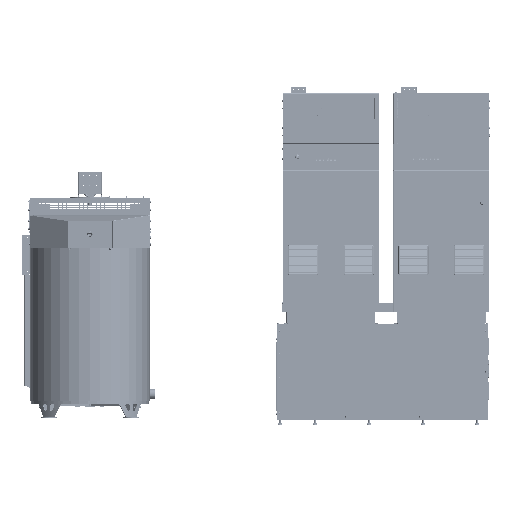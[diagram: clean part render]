
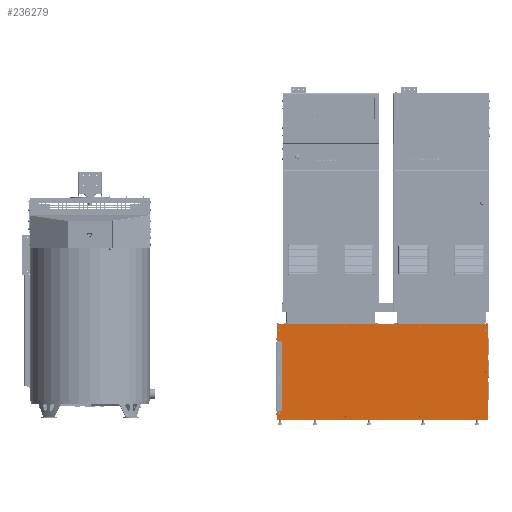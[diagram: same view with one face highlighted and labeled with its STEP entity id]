
A CAD part, top view. The second image highlights one B-rep face of the part: STEP entity #236279.
In plain terms, the highlighted planar face has unit normal (0, 0, 1).
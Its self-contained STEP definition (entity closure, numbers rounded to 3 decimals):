
#7999=FACE_BOUND('',#27892,.T.);
#8000=FACE_BOUND('',#27893,.T.);
#8001=FACE_BOUND('',#27894,.T.);
#8002=FACE_BOUND('',#27895,.T.);
#8003=FACE_BOUND('',#27896,.T.);
#8004=FACE_BOUND('',#27897,.T.);
#8005=FACE_BOUND('',#27898,.T.);
#8006=FACE_BOUND('',#27899,.T.);
#8007=FACE_BOUND('',#27900,.T.);
#16119=FACE_OUTER_BOUND('',#27891,.T.);
#27891=EDGE_LOOP('',(#189075,#189076,#189077,#189078,#189079,#189080,#189081,
#189082,#189083,#189084,#189085,#189086));
#27892=EDGE_LOOP('',(#189087));
#27893=EDGE_LOOP('',(#189088));
#27894=EDGE_LOOP('',(#189089));
#27895=EDGE_LOOP('',(#189090));
#27896=EDGE_LOOP('',(#189091));
#27897=EDGE_LOOP('',(#189092));
#27898=EDGE_LOOP('',(#189093));
#27899=EDGE_LOOP('',(#189094));
#27900=EDGE_LOOP('',(#189095));
#45800=LINE('',#384244,#67558);
#45805=LINE('',#384257,#67563);
#45809=LINE('',#384269,#67567);
#45811=LINE('',#384275,#67569);
#45817=LINE('',#384287,#67575);
#45818=LINE('',#384290,#67576);
#45833=LINE('',#384351,#67591);
#45839=LINE('',#384371,#67597);
#67558=VECTOR('',#303241,10.);
#67563=VECTOR('',#303254,10.);
#67567=VECTOR('',#303266,10.);
#67569=VECTOR('',#303270,10.);
#67575=VECTOR('',#303278,10.);
#67576=VECTOR('',#303281,10.);
#67591=VECTOR('',#303344,10.);
#67597=VECTOR('',#303374,10.);
#85584=CIRCLE('',#255533,6.);
#85587=CIRCLE('',#255538,6.);
#85609=CIRCLE('',#255578,6.);
#85610=CIRCLE('',#255579,6.);
#85611=CIRCLE('',#255580,4.);
#85612=CIRCLE('',#255581,4.);
#85613=CIRCLE('',#255582,4.);
#85614=CIRCLE('',#255583,4.);
#85615=CIRCLE('',#255584,4.);
#85616=CIRCLE('',#255585,4.);
#85617=CIRCLE('',#255586,4.);
#85618=CIRCLE('',#255587,4.);
#85619=CIRCLE('',#255588,4.);
#106117=VERTEX_POINT('',#384237);
#106118=VERTEX_POINT('',#384241);
#106120=VERTEX_POINT('',#384247);
#106123=VERTEX_POINT('',#384255);
#106125=VERTEX_POINT('',#384261);
#106127=VERTEX_POINT('',#384267);
#106128=VERTEX_POINT('',#384271);
#106130=VERTEX_POINT('',#384274);
#106133=VERTEX_POINT('',#384281);
#106135=VERTEX_POINT('',#384285);
#106136=VERTEX_POINT('',#384289);
#106158=VERTEX_POINT('',#384349);
#106161=VERTEX_POINT('',#384373);
#106162=VERTEX_POINT('',#384375);
#106163=VERTEX_POINT('',#384377);
#106164=VERTEX_POINT('',#384379);
#106165=VERTEX_POINT('',#384381);
#106166=VERTEX_POINT('',#384383);
#106167=VERTEX_POINT('',#384385);
#106168=VERTEX_POINT('',#384387);
#106169=VERTEX_POINT('',#384389);
#139429=EDGE_CURVE('',#106118,#106117,#45800,.T.);
#139431=EDGE_CURVE('',#106120,#106118,#85584,.T.);
#139436=EDGE_CURVE('',#106120,#106123,#45805,.T.);
#139439=EDGE_CURVE('',#106123,#106125,#85587,.T.);
#139442=EDGE_CURVE('',#106125,#106127,#45809,.T.);
#139444=EDGE_CURVE('',#106130,#106128,#45811,.T.);
#139450=EDGE_CURVE('',#106135,#106133,#45817,.T.);
#139451=EDGE_CURVE('',#106136,#106117,#45818,.T.);
#139483=EDGE_CURVE('',#106135,#106158,#45833,.T.);
#139493=EDGE_CURVE('',#106133,#106128,#85609,.T.);
#139494=EDGE_CURVE('',#106136,#106158,#45839,.T.);
#139495=EDGE_CURVE('',#106127,#106130,#85610,.T.);
#139496=EDGE_CURVE('',#106161,#106161,#85611,.T.);
#139497=EDGE_CURVE('',#106162,#106162,#85612,.T.);
#139498=EDGE_CURVE('',#106163,#106163,#85613,.T.);
#139499=EDGE_CURVE('',#106164,#106164,#85614,.T.);
#139500=EDGE_CURVE('',#106165,#106165,#85615,.T.);
#139501=EDGE_CURVE('',#106166,#106166,#85616,.T.);
#139502=EDGE_CURVE('',#106167,#106167,#85617,.T.);
#139503=EDGE_CURVE('',#106168,#106168,#85618,.T.);
#139504=EDGE_CURVE('',#106169,#106169,#85619,.T.);
#189075=ORIENTED_EDGE('',*,*,#139493,.F.);
#189076=ORIENTED_EDGE('',*,*,#139450,.F.);
#189077=ORIENTED_EDGE('',*,*,#139483,.T.);
#189078=ORIENTED_EDGE('',*,*,#139494,.F.);
#189079=ORIENTED_EDGE('',*,*,#139451,.T.);
#189080=ORIENTED_EDGE('',*,*,#139429,.F.);
#189081=ORIENTED_EDGE('',*,*,#139431,.F.);
#189082=ORIENTED_EDGE('',*,*,#139436,.T.);
#189083=ORIENTED_EDGE('',*,*,#139439,.T.);
#189084=ORIENTED_EDGE('',*,*,#139442,.T.);
#189085=ORIENTED_EDGE('',*,*,#139495,.T.);
#189086=ORIENTED_EDGE('',*,*,#139444,.T.);
#189087=ORIENTED_EDGE('',*,*,#139496,.T.);
#189088=ORIENTED_EDGE('',*,*,#139497,.T.);
#189089=ORIENTED_EDGE('',*,*,#139498,.T.);
#189090=ORIENTED_EDGE('',*,*,#139499,.T.);
#189091=ORIENTED_EDGE('',*,*,#139500,.T.);
#189092=ORIENTED_EDGE('',*,*,#139501,.T.);
#189093=ORIENTED_EDGE('',*,*,#139502,.T.);
#189094=ORIENTED_EDGE('',*,*,#139503,.T.);
#189095=ORIENTED_EDGE('',*,*,#139504,.T.);
#218674=PLANE('',#255577);
#236279=ADVANCED_FACE('',(#16119,#7999,#8000,#8001,#8002,#8003,#8004,#8005,
#8006,#8007),#218674,.F.);
#255533=AXIS2_PLACEMENT_3D('',#384248,#303245,#303246);
#255538=AXIS2_PLACEMENT_3D('',#384263,#303260,#303261);
#255577=AXIS2_PLACEMENT_3D('',#384369,#303370,#303371);
#255578=AXIS2_PLACEMENT_3D('',#384370,#303372,#303373);
#255579=AXIS2_PLACEMENT_3D('',#384372,#303375,#303376);
#255580=AXIS2_PLACEMENT_3D('',#384374,#303377,#303378);
#255581=AXIS2_PLACEMENT_3D('',#384376,#303379,#303380);
#255582=AXIS2_PLACEMENT_3D('',#384378,#303381,#303382);
#255583=AXIS2_PLACEMENT_3D('',#384380,#303383,#303384);
#255584=AXIS2_PLACEMENT_3D('',#384382,#303385,#303386);
#255585=AXIS2_PLACEMENT_3D('',#384384,#303387,#303388);
#255586=AXIS2_PLACEMENT_3D('',#384386,#303389,#303390);
#255587=AXIS2_PLACEMENT_3D('',#384388,#303391,#303392);
#255588=AXIS2_PLACEMENT_3D('',#384390,#303393,#303394);
#303241=DIRECTION('',(0.,1.,0.));
#303245=DIRECTION('center_axis',(0.,0.,
-1.));
#303246=DIRECTION('ref_axis',(-0.707,-0.707,0.));
#303254=DIRECTION('',(1.,0.,0.));
#303260=DIRECTION('center_axis',(0.,0.,
-1.));
#303261=DIRECTION('ref_axis',(1.,0.,0.));
#303266=DIRECTION('',(0.,-1.,0.));
#303270=DIRECTION('',(-1.,0.,0.));
#303278=DIRECTION('',(0.,1.,0.));
#303281=DIRECTION('',(-1.,0.,0.));
#303344=DIRECTION('',(1.,0.,0.));
#303370=DIRECTION('center_axis',(0.,0.,
-1.));
#303371=DIRECTION('ref_axis',(-1.,0.,0.));
#303372=DIRECTION('center_axis',(0.,0.,
-1.));
#303373=DIRECTION('ref_axis',(-0.707,0.707,0.));
#303374=DIRECTION('',(0.,-1.,0.));
#303375=DIRECTION('center_axis',(0.,0.,
-1.));
#303376=DIRECTION('ref_axis',(0.,-1.,0.));
#303377=DIRECTION('center_axis',(0.,0.,
-1.));
#303378=DIRECTION('ref_axis',(1.,0.,0.));
#303379=DIRECTION('center_axis',(0.,0.,
-1.));
#303380=DIRECTION('ref_axis',(1.,0.,0.));
#303381=DIRECTION('center_axis',(0.,0.,
-1.));
#303382=DIRECTION('ref_axis',(1.,0.,0.));
#303383=DIRECTION('center_axis',(0.,0.,
-1.));
#303384=DIRECTION('ref_axis',(1.,0.,0.));
#303385=DIRECTION('center_axis',(0.,0.,
-1.));
#303386=DIRECTION('ref_axis',(1.,0.,0.));
#303387=DIRECTION('center_axis',(0.,0.,
-1.));
#303388=DIRECTION('ref_axis',(1.,0.,0.));
#303389=DIRECTION('center_axis',(0.,0.,
-1.));
#303390=DIRECTION('ref_axis',(1.,0.,0.));
#303391=DIRECTION('center_axis',(0.,0.,
-1.));
#303392=DIRECTION('ref_axis',(1.,0.,0.));
#303393=DIRECTION('center_axis',(0.,0.,
-1.));
#303394=DIRECTION('ref_axis',(1.,0.,0.));
#384237=CARTESIAN_POINT('',(-350.624,-154.234,188.487));
#384241=CARTESIAN_POINT('',(-350.624,-267.234,188.487));
#384244=CARTESIAN_POINT('',(-350.624,-803.234,188.487));
#384247=CARTESIAN_POINT('',(-344.624,-273.234,188.487));
#384248=CARTESIAN_POINT('Origin',(-344.624,-267.234,188.487));
#384255=CARTESIAN_POINT('',(-326.624,-273.234,188.487));
#384257=CARTESIAN_POINT('',(5.376,-273.234,188.487));
#384261=CARTESIAN_POINT('',(-320.624,-279.234,188.487));
#384263=CARTESIAN_POINT('Origin',(-326.624,-279.234,188.487));
#384267=CARTESIAN_POINT('',(-320.624,-738.234,188.487));
#384269=CARTESIAN_POINT('',(-320.624,-378.484,188.487));
#384271=CARTESIAN_POINT('',(-344.624,-744.234,188.487));
#384274=CARTESIAN_POINT('',(-326.624,-744.234,188.487));
#384275=CARTESIAN_POINT('',(17.376,-744.234,188.487));
#384281=CARTESIAN_POINT('',(-350.624,-750.234,188.487));
#384285=CARTESIAN_POINT('',(-350.624,-801.234,188.487));
#384287=CARTESIAN_POINT('',(-350.624,-803.234,188.487));
#384289=CARTESIAN_POINT('',(1073.376,-154.234,188.487));
#384290=CARTESIAN_POINT('',(717.376,-154.234,188.487));
#384349=CARTESIAN_POINT('',(1073.376,-801.234,188.487));
#384351=CARTESIAN_POINT('',(5.376,-801.234,188.487));
#384369=CARTESIAN_POINT('Origin',(361.376,-477.734,188.487));
#384370=CARTESIAN_POINT('Origin',(-344.624,-750.234,188.487));
#384371=CARTESIAN_POINT('',(1073.376,-152.234,188.487));
#384372=CARTESIAN_POINT('Origin',(-326.624,-738.234,188.487));
#384373=CARTESIAN_POINT('',(1060.376,-477.734,188.487));
#384374=CARTESIAN_POINT('Origin',(1056.376,-477.734,188.487));
#384375=CARTESIAN_POINT('',(115.376,-782.734,188.487));
#384376=CARTESIAN_POINT('Origin',(111.376,-782.734,188.487));
#384377=CARTESIAN_POINT('',(615.376,-172.734,188.487));
#384378=CARTESIAN_POINT('Origin',(611.376,-172.734,188.487));
#384379=CARTESIAN_POINT('',(1060.376,-202.734,188.487));
#384380=CARTESIAN_POINT('Origin',(1056.376,-202.734,188.487));
#384381=CARTESIAN_POINT('',(-329.624,-757.734,188.487));
#384382=CARTESIAN_POINT('Origin',(-333.624,-757.734,188.487));
#384383=CARTESIAN_POINT('',(-329.624,-202.734,188.487));
#384384=CARTESIAN_POINT('Origin',(-333.624,-202.734,188.487));
#384385=CARTESIAN_POINT('',(115.376,-172.734,188.487));
#384386=CARTESIAN_POINT('Origin',(111.376,-172.734,188.487));
#384387=CARTESIAN_POINT('',(615.376,-782.734,188.487));
#384388=CARTESIAN_POINT('Origin',(611.376,-782.734,188.487));
#384389=CARTESIAN_POINT('',(1060.376,-752.734,188.487));
#384390=CARTESIAN_POINT('Origin',(1056.376,-752.734,188.487));
